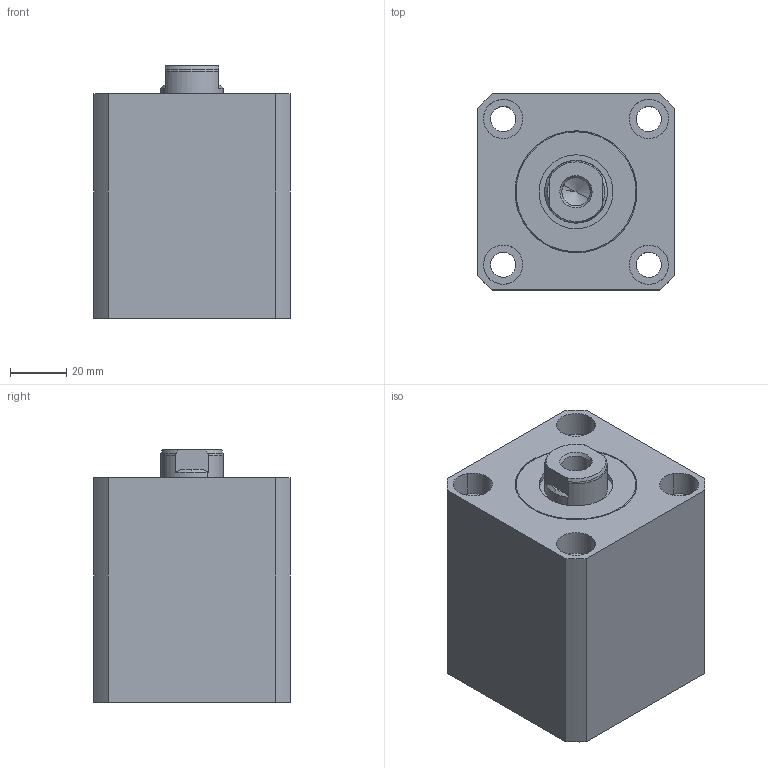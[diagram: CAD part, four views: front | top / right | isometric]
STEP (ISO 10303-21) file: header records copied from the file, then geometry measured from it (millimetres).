
FILE_DESCRIPTION(('CATIA V5 STEP'),'2;1');
FILE_NAME('\\Kjf-102\kjf_tc\Hydraulic_Clamp\Standard\BLOCK_CLAMP\BDx-40xx\G-TYPE\BDV-4025G_-.stp','2018-12-10T02:18:03+00:00',('none'),('none'),'CATIA Version 5 Release 19 SP 6 (IN-10)','CATIA V5 STEP AP214','none');
FILE_SCHEMA(('AUTOMOTIVE_DESIGN { 1 0 10303 214 1 1 1 1 }'));
Length unit declared in the file: millimetre
Products named in the file (3): BDV-4025G_-; BDV-4025G_-_HOUSING; BDx-4025_-_PISTON
Assembly tree (2 placements, depth 2):
  BDV-4025G_-
    BDV-4025G_-_HOUSING
    BDx-4025_-_PISTON
Bounding box: 70 x 70 x 90 mm (x, y, z)
Volume: 308380.3 mm3; surface area: 56377.2 mm2
Topology: 2 solids, 2 shells, 95 faces, 229 edges, 150 vertices
Faces by surface type: cylinder 48, plane 26, cone 19, torus 2
Entity records: 3165 total; most frequent: CARTESIAN_POINT 995, ORIENTED_EDGE 446, DIRECTION 348, EDGE_CURVE 223, AXIS2_PLACEMENT_3D 180, VERTEX_POINT 149, EDGE_LOOP 120, ADVANCED_FACE 95
